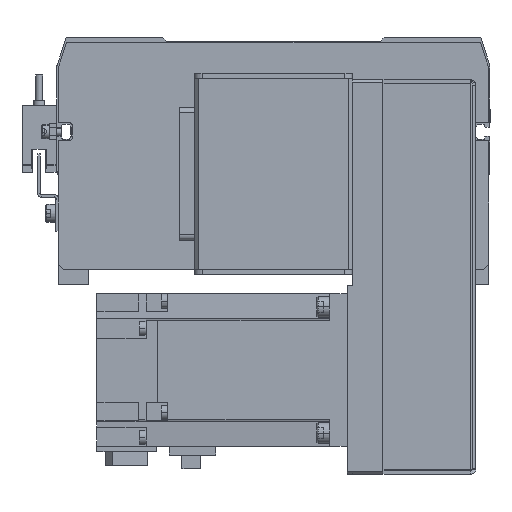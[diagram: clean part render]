
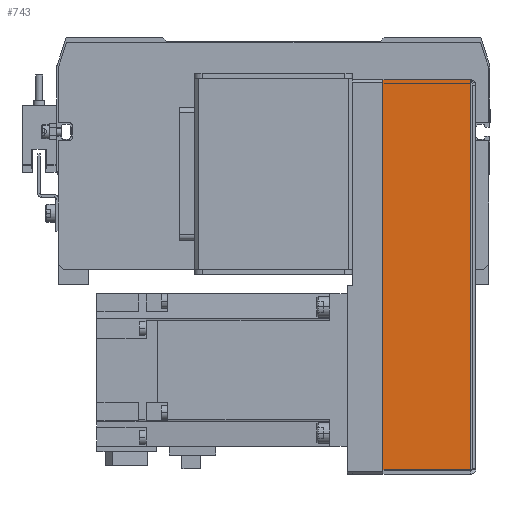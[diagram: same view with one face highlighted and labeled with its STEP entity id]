
A CAD part, front view. The second image highlights one B-rep face of the part: STEP entity #743.
In plain terms, the highlighted planar face has unit normal (0, -1, 0).
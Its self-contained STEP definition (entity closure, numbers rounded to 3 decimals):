
#743 = ADVANCED_FACE ( 'NONE', ( #36645 ), #26800, .F. ) ;
#1698 = DIRECTION ( 'NONE',  ( -1., 0., 0. ) ) ;
#4422 = CARTESIAN_POINT ( 'NONE',  ( 0.737, -14.163, -134.327 ) ) ;
#5308 = VERTEX_POINT ( 'NONE', #35237 ) ;
#6052 = EDGE_CURVE ( 'NONE', #34321, #16844, #40278, .T. ) ;
#7012 = DIRECTION ( 'NONE',  ( 0., 0., 1. ) ) ;
#7443 = DIRECTION ( 'NONE',  ( 0., 0., -1. ) ) ;
#9981 = CARTESIAN_POINT ( 'NONE',  ( 0.737, -14.163, 20.673 ) ) ;
#10624 = ORIENTED_EDGE ( 'NONE', *, *, #26632, .F. ) ;
#10904 = EDGE_CURVE ( 'NONE', #25398, #34321, #29687, .T. ) ;
#11181 = EDGE_LOOP ( 'NONE', ( #30980, #23329, #10624, #33751 ) ) ;
#11220 = DIRECTION ( 'NONE',  ( 0., 1., 0. ) ) ;
#16534 = LINE ( 'NONE', #26101, #30185 ) ;
#16844 = VERTEX_POINT ( 'NONE', #40075 ) ;
#18313 = VECTOR ( 'NONE', #25835, 1000. ) ;
#20372 = VECTOR ( 'NONE', #23595, 1000. ) ;
#22786 = EDGE_CURVE ( 'NONE', #25398, #5308, #28222, .T. ) ;
#23329 = ORIENTED_EDGE ( 'NONE', *, *, #22786, .T. ) ;
#23595 = DIRECTION ( 'NONE',  ( 1., 0., 0. ) ) ;
#23922 = CARTESIAN_POINT ( 'NONE',  ( 0.737, -14.163, 18.873 ) ) ;
#25398 = VERTEX_POINT ( 'NONE', #4422 ) ;
#25835 = DIRECTION ( 'NONE',  ( 1., 0., 0. ) ) ;
#26101 = CARTESIAN_POINT ( 'NONE',  ( 35., -14.163, 20.673 ) ) ;
#26632 = EDGE_CURVE ( 'NONE', #16844, #5308, #16534, .T. ) ;
#26800 = PLANE ( 'NONE',  #27946 ) ;
#27946 = AXIS2_PLACEMENT_3D ( 'NONE', #38832, #11220, #1698 ) ;
#28222 = LINE ( 'NONE', #29982, #20372 ) ;
#29687 = LINE ( 'NONE', #9981, #37023 ) ;
#29982 = CARTESIAN_POINT ( 'NONE',  ( 0.737, -14.163, -134.327 ) ) ;
#30185 = VECTOR ( 'NONE', #7443, 1000. ) ;
#30980 = ORIENTED_EDGE ( 'NONE', *, *, #10904, .F. ) ;
#33751 = ORIENTED_EDGE ( 'NONE', *, *, #6052, .F. ) ;
#34321 = VERTEX_POINT ( 'NONE', #23922 ) ;
#35237 = CARTESIAN_POINT ( 'NONE',  ( 35., -14.163, -134.327 ) ) ;
#36645 = FACE_OUTER_BOUND ( 'NONE', #11181, .T. ) ;
#37023 = VECTOR ( 'NONE', #7012, 1000. ) ;
#38263 = CARTESIAN_POINT ( 'NONE',  ( 0.737, -14.163, 18.873 ) ) ;
#38832 = CARTESIAN_POINT ( 'NONE',  ( 0., -14.163, 0. ) ) ;
#40075 = CARTESIAN_POINT ( 'NONE',  ( 35., -14.163, 18.873 ) ) ;
#40278 = LINE ( 'NONE', #38263, #18313 ) ;
